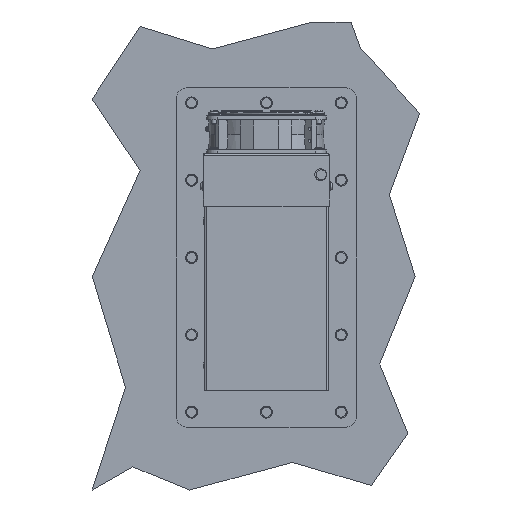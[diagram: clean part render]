
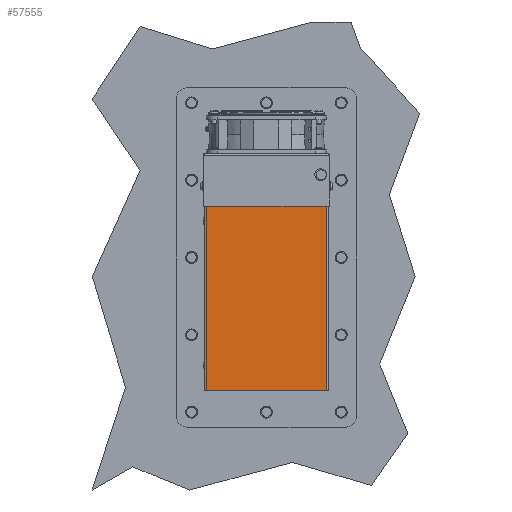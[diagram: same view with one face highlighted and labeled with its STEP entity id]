
A CAD part, left-side view. The second image highlights one B-rep face of the part: STEP entity #57555.
In plain terms, the highlighted planar face has unit normal (-1, 0, 0).
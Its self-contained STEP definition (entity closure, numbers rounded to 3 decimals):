
#3503=LINE('',#107969,#9118);
#3546=LINE('',#108103,#9161);
#3585=LINE('',#108248,#9200);
#3587=LINE('',#108252,#9202);
#9118=VECTOR('',#88789,1000.);
#9161=VECTOR('',#88916,1000.);
#9200=VECTOR('',#89071,1000.);
#9202=VECTOR('',#89077,1000.);
#14515=PLANE('',#79120);
#23870=ORIENTED_EDGE('',*,*,#35755,.F.);
#23871=ORIENTED_EDGE('',*,*,#35828,.F.);
#23872=ORIENTED_EDGE('',*,*,#35826,.T.);
#23873=ORIENTED_EDGE('',*,*,#35688,.F.);
#35688=EDGE_CURVE('',#42459,#42460,#3503,.T.);
#35755=EDGE_CURVE('',#42508,#42459,#3546,.T.);
#35826=EDGE_CURVE('',#42556,#42460,#3585,.T.);
#35828=EDGE_CURVE('',#42556,#42508,#3587,.T.);
#42459=VERTEX_POINT('',#107968);
#42460=VERTEX_POINT('',#107970);
#42508=VERTEX_POINT('',#108100);
#42556=VERTEX_POINT('',#108244);
#48817=EDGE_LOOP('',(#23870,#23871,#23872,#23873));
#53194=FACE_BOUND('',#48817,.T.);
#57555=ADVANCED_FACE('',(#53194),#14515,.T.);
#79120=AXIS2_PLACEMENT_3D('',#108251,#89075,#89076);
#88789=DIRECTION('',(0.,1.,0.));
#88916=DIRECTION('',(0.,0.,-1.));
#89071=DIRECTION('',(0.,0.,-1.));
#89075=DIRECTION('',(-1.,0.,0.));
#89076=DIRECTION('',(0.,0.,1.));
#89077=DIRECTION('',(0.,-1.,0.));
#107968=CARTESIAN_POINT('',(-117.4,-60.5,-200.));
#107969=CARTESIAN_POINT('',(-117.4,62.,-200.));
#107970=CARTESIAN_POINT('',(-117.4,60.5,-200.));
#108100=CARTESIAN_POINT('',(-117.4,-60.5,-2.));
#108103=CARTESIAN_POINT('',(-117.4,-60.5,0.));
#108244=CARTESIAN_POINT('',(-117.4,60.5,-2.));
#108248=CARTESIAN_POINT('',(-117.4,60.5,0.));
#108251=CARTESIAN_POINT('',(-117.4,62.,0.));
#108252=CARTESIAN_POINT('',(-117.4,62.,-2.));
